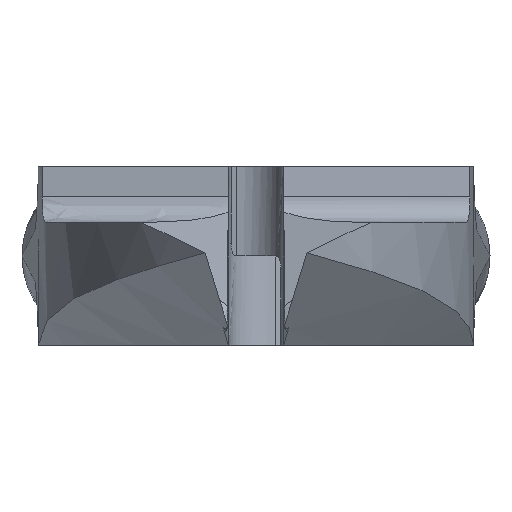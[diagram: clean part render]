
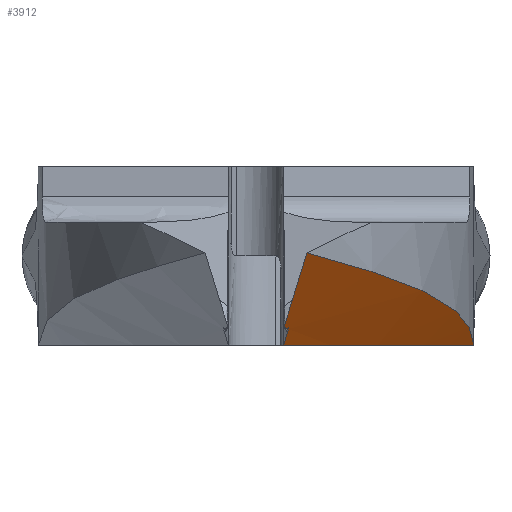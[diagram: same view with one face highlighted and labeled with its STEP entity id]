
A CAD part, left-side view. The second image highlights one B-rep face of the part: STEP entity #3912.
In plain terms, the highlighted cylindrical face has radius 45 mm (diameter 90 mm), a partial arc.
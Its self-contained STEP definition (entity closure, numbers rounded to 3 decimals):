
#23 = DIRECTION ( 'NONE',  ( 0.966, 0., -0.259 ) ) ;
#211 = CARTESIAN_POINT ( 'NONE',  ( -12.892, -0.2, 0.642 ) ) ;
#324 = CARTESIAN_POINT ( 'NONE',  ( -9.32, -7.744, 0.379 ) ) ;
#378 = CARTESIAN_POINT ( 'NONE',  ( -24., 0., 3.618 ) ) ;
#521 = EDGE_CURVE ( 'NONE', #1764, #3543, #1722, .T. ) ;
#579 = LINE ( 'NONE', #1068, #4260 ) ;
#651 = CARTESIAN_POINT ( 'NONE',  ( -24., 0., 3.618 ) ) ;
#670 = CARTESIAN_POINT ( 'NONE',  ( -21.793, -2.168, 3.071 ) ) ;
#683 = CARTESIAN_POINT ( 'NONE',  ( -7.792, -7.91, 0. ) ) ;
#767 = VECTOR ( 'NONE', #2937, 1000. ) ;
#997 = CARTESIAN_POINT ( 'NONE',  ( -10.497, -0.2, 0. ) ) ;
#1003 = CARTESIAN_POINT ( 'NONE',  ( -10.497, -0.2, 0. ) ) ;
#1019 = CARTESIAN_POINT ( 'NONE',  ( -19.304, -3.969, 2.539 ) ) ;
#1068 = CARTESIAN_POINT ( 'NONE',  ( -15.987, -0.2, 1.471 ) ) ;
#1334 = DIRECTION ( 'NONE',  ( -0.259, 0., -0.966 ) ) ;
#1369 = CARTESIAN_POINT ( 'NONE',  ( -22.942, -1.141, 3.334 ) ) ;
#1392 = CARTESIAN_POINT ( 'NONE',  ( -17.979, -4.763, 2.266 ) ) ;
#1434 = AXIS2_PLACEMENT_3D ( 'NONE', #3852, #2783, #1334 ) ;
#1526 = VERTEX_POINT ( 'NONE', #997 ) ;
#1635 = CARTESIAN_POINT ( 'NONE',  ( -12.892, -0.067, 0.641 ) ) ;
#1647 = CYLINDRICAL_SURFACE ( 'NONE', #1434, 45. ) ;
#1722 = LINE ( 'NONE', #3344, #767 ) ;
#1728 = CARTESIAN_POINT ( 'NONE',  ( -7.792, -7.91, 0. ) ) ;
#1741 = CARTESIAN_POINT ( 'NONE',  ( -16.952, -5.313, 2.054 ) ) ;
#1764 = VERTEX_POINT ( 'NONE', #378 ) ;
#2100 = ORIENTED_EDGE ( 'NONE', *, *, #3928, .T. ) ;
#2104 = CARTESIAN_POINT ( 'NONE',  ( -13.778, -6.698, 1.395 ) ) ;
#2215 = ORIENTED_EDGE ( 'NONE', *, *, #3931, .F. ) ;
#2350 = CARTESIAN_POINT ( 'NONE',  ( -12.892, -0.133, 0.641 ) ) ;
#2465 = CARTESIAN_POINT ( 'NONE',  ( -10.827, -7.474, 0.735 ) ) ;
#2783 = DIRECTION ( 'NONE',  ( 0.966, 0., -0.259 ) ) ;
#2815 = CARTESIAN_POINT ( 'NONE',  ( -8.556, -7.845, 0.193 ) ) ;
#2843 = CARTESIAN_POINT ( 'NONE',  ( -12.892, -0.2, 0.642 ) ) ;
#2937 = DIRECTION ( 'NONE',  ( 0.966, 0., -0.259 ) ) ;
#3015 = ORIENTED_EDGE ( 'NONE', *, *, #3979, .T. ) ;
#3107 = B_SPLINE_CURVE_WITH_KNOTS ( 'NONE', 3,
 ( #651, #1369, #670, #3150, #1019, #3519, #1392, #3884, #1741, #4233, #2104, #4605, #2465, #324, #2815, #683 ),
 .UNSPECIFIED., .F., .F.,
 ( 4, 2, 2, 2, 2, 2, 2, 4 ),
 ( 0., 0.005, 0.007, 0.008, 0.009, 0.014, 0.016, 0.019 ),
 .UNSPECIFIED. ) ;
#3133 = CARTESIAN_POINT ( 'NONE',  ( -10.453, -2.787, 0. ) ) ;
#3150 = CARTESIAN_POINT ( 'NONE',  ( -19.942, -3.54, 2.672 ) ) ;
#3204 =( BOUNDED_CURVE ( )  B_SPLINE_CURVE ( 3, ( #4116, #1635, #2350, #211 ),
 .UNSPECIFIED., .F., .F. ) 
 B_SPLINE_CURVE_WITH_KNOTS ( ( 4, 4 ),
 ( 0., 0.004 ),
 .UNSPECIFIED. ) 
 CURVE ( )  GEOMETRIC_REPRESENTATION_ITEM ( )  RATIONAL_B_SPLINE_CURVE ( ( 1., 1., 1., 1. ) ) 
 REPRESENTATION_ITEM ( '' )  );
#3344 = CARTESIAN_POINT ( 'NONE',  ( -15.987, 0., 1.47 ) ) ;
#3438 = ORIENTED_EDGE ( 'NONE', *, *, #4557, .T. ) ;
#3519 = CARTESIAN_POINT ( 'NONE',  ( -18.314, -4.57, 2.334 ) ) ;
#3543 = VERTEX_POINT ( 'NONE', #3558 ) ;
#3558 = CARTESIAN_POINT ( 'NONE',  ( -12.892, 0., 0.641 ) ) ;
#3755 = CARTESIAN_POINT ( 'NONE',  ( -7.792, -7.91, 0. ) ) ;
#3852 = CARTESIAN_POINT ( 'NONE',  ( -12.449, 0., 47.11 ) ) ;
#3868 = CARTESIAN_POINT ( 'NONE',  ( -9.549, -5.363, 0. ) ) ;
#3884 = CARTESIAN_POINT ( 'NONE',  ( -17.298, -5.134, 2.126 ) ) ;
#3912 = ADVANCED_FACE ( 'NONE', ( #4603 ), #1647, .T. ) ;
#3928 = EDGE_CURVE ( 'NONE', #1526, #4532, #3954, .T. ) ;
#3931 = EDGE_CURVE ( 'NONE', #1764, #4532, #3107, .T. ) ;
#3954 =( BOUNDED_CURVE ( )  B_SPLINE_CURVE ( 3, ( #1003, #3133, #3868, #1728 ),
 .UNSPECIFIED., .F., .F. ) 
 B_SPLINE_CURVE_WITH_KNOTS ( ( 4, 4 ),
 ( 3.146, 3.318 ),
 .UNSPECIFIED. ) 
 CURVE ( )  GEOMETRIC_REPRESENTATION_ITEM ( )  RATIONAL_B_SPLINE_CURVE ( ( 1., 0.998, 0.998, 1. ) ) 
 REPRESENTATION_ITEM ( '' )  );
#3979 = EDGE_CURVE ( 'NONE', #3985, #1526, #579, .T. ) ;
#3985 = VERTEX_POINT ( 'NONE', #2843 ) ;
#4100 = ORIENTED_EDGE ( 'NONE', *, *, #521, .T. ) ;
#4116 = CARTESIAN_POINT ( 'NONE',  ( -12.892, 0., 0.641 ) ) ;
#4233 = CARTESIAN_POINT ( 'NONE',  ( -15.211, -6.159, 1.696 ) ) ;
#4260 = VECTOR ( 'NONE', #23, 1000. ) ;
#4464 = EDGE_LOOP ( 'NONE', ( #2215, #4100, #3438, #3015, #2100 ) ) ;
#4532 = VERTEX_POINT ( 'NONE', #3755 ) ;
#4557 = EDGE_CURVE ( 'NONE', #3543, #3985, #3204, .T. ) ;
#4603 = FACE_OUTER_BOUND ( 'NONE', #4464, .T. ) ;
#4605 = CARTESIAN_POINT ( 'NONE',  ( -11.572, -7.305, 0.905 ) ) ;
